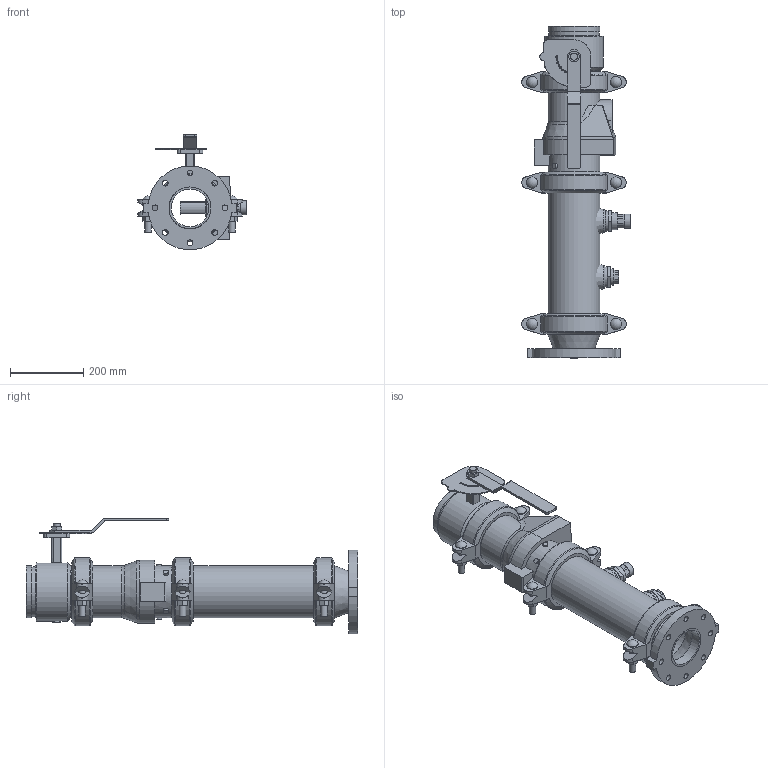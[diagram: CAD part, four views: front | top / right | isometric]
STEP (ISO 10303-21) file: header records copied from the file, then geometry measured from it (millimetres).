
FILE_DESCRIPTION(/* description */ ('VIC DVI PUMP DROP VERT S/380 (OGSxFLG) (S/924-0.75)','CAx-IF Rec.Pracs.---Representation and Presentation of Product Manufacturing Information (PMI)---4.0---2014-10-13'),/* implementation_level */ '2;1');
FILE_NAME(/* name */ 'C:\Users\Public\Documents\Victaulic.Temp\A765\Victaulic_IPS_Vertical DVI_CL 150_Series 380 (OGSxFLG)_924 (0.75)_05.0x04.0 (125x100).stp',/* time_stamp */ '2022-07-25T11:11:34+02:00',/* author */ ('Vjadhav'),/* organization */ ('Victaulic'),/* preprocessor_version */ 'ST-DEVELOPER v18',/* originating_system */ 'Autodesk Inventor 2020',/* authorisation */ '');
FILE_SCHEMA (('AP242_MANAGED_MODEL_BASED_3D_ENGINEERING_MIM_LF { 1 0 10303 442 1 1 4 }'));
Length unit declared in the file: inch
Products named in the file (9): 380_924 (0.75)-05.0x04.0; 741-04.0; 050-05.0x04.0; Pipe-05.0; 177N-05.0; 761-05.0; 779-05.0; 923-04.0x0.75; 924-04.0x0.75
Assembly tree (10 placements, depth 2):
  380_924 (0.75)-05.0x04.0
    741-04.0
    050-05.0x04.0
    177N-05.0  x3
    Pipe-05.0
    761-05.0
    779-05.0
    923-04.0x0.75
    924-04.0x0.75
Bounding box: 294.96 x 904.88 x 314.29 mm (x, y, z)
Volume: 7996046.6 mm3; surface area: 1415710.4 mm2
Topology: 10 solids, 11 shells, 591 faces, 1543 edges, 1032 vertices
Faces by surface type: plane 345, cylinder 200, cone 20, torus 18, sphere 6, bspline 2
Full cylindrical faces by diameter (mm): 4.826 x10, 8.636 x4, 13.716 x4, 15.875 x8, 17.78 x6, 19.05 x2, 22.86 x1, 26.67 x2, 30.48 x6, 38.608 x1, 45.974 x4, 55.118 x1, 55.626 x2, 102.26 x1, 110.084 x1, 114.3 x3, 128.194 x4, 128.6 x3, 137.033 x7, 141.3 x19, 160.02 x1
Entity records: 14088 total; most frequent: CARTESIAN_POINT 2793, DIRECTION 2325, ORIENTED_EDGE 2114, EDGE_CURVE 1057, AXIS2_PLACEMENT_3D 884, VERTEX_POINT 712, LINE 557, VECTOR 557
